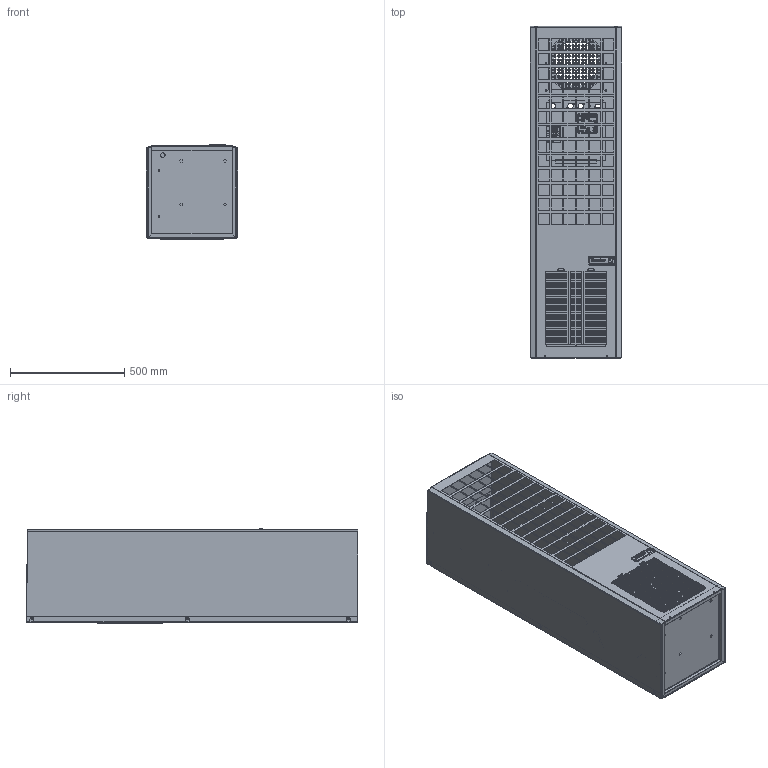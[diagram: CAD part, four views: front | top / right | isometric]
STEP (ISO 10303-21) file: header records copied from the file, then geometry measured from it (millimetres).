
FILE_DESCRIPTION (( 'STEP AP203' ), '1' );
FILE_NAME ('DTS 3441-61.STEP', '2017-11-29T12:36:11', ( '' ), ( '' ), 'SwSTEP 2.0', 'SolidWorks 2015', '' );
FILE_SCHEMA (( 'CONFIG_CONTROL_DESIGN' ));
Length unit declared in the file: millimetre
Products named in the file (10): 885000105_885000105; 80029-020_802006068; DTS 3441-61; 885000018_885000018; 085110180; 80029-011_802006062; 80029-010_802006061; 005079103_DTS cutout; 80029-023_802006083; 80029-016_802006094
Assembly tree (9 placements, depth 2):
  DTS 3441-61
    80029-020_802006068
    885000018_885000018
    085110180
    80029-011_802006062
    80029-010_802006061
    005079103_DTS cutout
    80029-023_802006083
    80029-016_802006094
    885000105_885000105
Bounding box: 400.84 x 1452.42 x 412.28 mm (x, y, z)
Volume: 4341026.4 mm3; surface area: 6282730 mm2
Topology: 40 solids, 40 shells, 12127 faces, 33101 edges, 21990 vertices
Faces by surface type: plane 7234, bspline 4260, cylinder 633
Entity records: 634562 total; most frequent: CARTESIAN_POINT 353155, ORIENTED_EDGE 66202, DIRECTION 41270, EDGE_CURVE 33101, VECTOR 23060, LINE 23060, VERTEX_POINT 21990, EDGE_LOOP 14101
